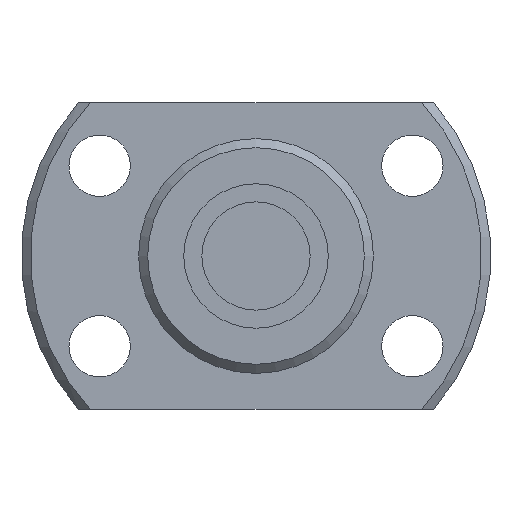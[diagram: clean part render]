
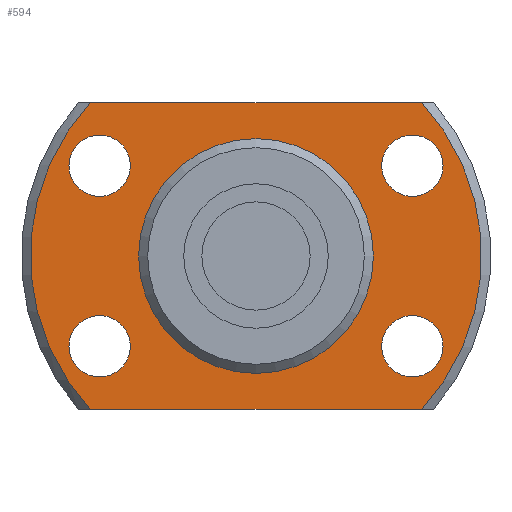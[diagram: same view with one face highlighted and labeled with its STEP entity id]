
A CAD part, left-side view. The second image highlights one B-rep face of the part: STEP entity #594.
In plain terms, the highlighted planar face has unit normal (-1, 0, 0) as drawn and (1, 0, 0) by its records, which use the part's own axes.
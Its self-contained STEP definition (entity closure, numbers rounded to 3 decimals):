
#80=CIRCLE('',#673,12.5);
#95=CIRCLE('',#697,6.3);
#96=CIRCLE('',#699,12.5);
#97=CIRCLE('',#700,1.7);
#98=CIRCLE('',#701,1.7);
#99=CIRCLE('',#702,1.7);
#100=CIRCLE('',#703,1.7);
#193=ORIENTED_EDGE('',*,*,#292,.T.);
#194=ORIENTED_EDGE('',*,*,#270,.T.);
#195=ORIENTED_EDGE('',*,*,#293,.T.);
#196=ORIENTED_EDGE('',*,*,#294,.T.);
#197=ORIENTED_EDGE('',*,*,#295,.F.);
#198=ORIENTED_EDGE('',*,*,#296,.F.);
#199=ORIENTED_EDGE('',*,*,#297,.F.);
#200=ORIENTED_EDGE('',*,*,#298,.F.);
#201=ORIENTED_EDGE('',*,*,#291,.F.);
#270=EDGE_CURVE('',#330,#332,#80,.T.);
#291=EDGE_CURVE('',#351,#351,#95,.T.);
#292=EDGE_CURVE('',#352,#330,#374,.T.);
#293=EDGE_CURVE('',#332,#353,#375,.T.);
#294=EDGE_CURVE('',#353,#352,#96,.T.);
#295=EDGE_CURVE('',#354,#354,#97,.T.);
#296=EDGE_CURVE('',#355,#355,#98,.T.);
#297=EDGE_CURVE('',#356,#356,#99,.T.);
#298=EDGE_CURVE('',#357,#357,#100,.T.);
#330=VERTEX_POINT('',#986);
#332=VERTEX_POINT('',#993);
#351=VERTEX_POINT('',#1049);
#352=VERTEX_POINT('',#1052);
#353=VERTEX_POINT('',#1054);
#354=VERTEX_POINT('',#1057);
#355=VERTEX_POINT('',#1059);
#356=VERTEX_POINT('',#1061);
#357=VERTEX_POINT('',#1063);
#374=LINE('',#1051,#392);
#375=LINE('',#1053,#393);
#392=VECTOR('',#869,1000.);
#393=VECTOR('',#870,1000.);
#451=EDGE_LOOP('',(#193,#194,#195,#196));
#452=EDGE_LOOP('',(#197));
#453=EDGE_LOOP('',(#198));
#454=EDGE_LOOP('',(#199));
#455=EDGE_LOOP('',(#200));
#456=EDGE_LOOP('',(#201));
#525=FACE_BOUND('',#451,.T.);
#526=FACE_BOUND('',#452,.T.);
#527=FACE_BOUND('',#453,.T.);
#528=FACE_BOUND('',#454,.T.);
#529=FACE_BOUND('',#455,.T.);
#530=FACE_BOUND('',#456,.T.);
#560=PLANE('',#698);
#594=ADVANCED_FACE('',(#525,#526,#527,#528,#529,#530),#560,.T.);
#673=AXIS2_PLACEMENT_3D('',#994,#813,#814);
#697=AXIS2_PLACEMENT_3D('',#1048,#865,#866);
#698=AXIS2_PLACEMENT_3D('',#1050,#867,#868);
#699=AXIS2_PLACEMENT_3D('',#1055,#871,#872);
#700=AXIS2_PLACEMENT_3D('',#1056,#873,#874);
#701=AXIS2_PLACEMENT_3D('',#1058,#875,#876);
#702=AXIS2_PLACEMENT_3D('',#1060,#877,#878);
#703=AXIS2_PLACEMENT_3D('',#1062,#879,#880);
#813=DIRECTION('',(1.,0.,0.));
#814=DIRECTION('',(0.,0.,-1.));
#865=DIRECTION('',(1.,0.,0.));
#866=DIRECTION('',(0.,0.,-1.));
#867=DIRECTION('',(1.,0.,0.));
#868=DIRECTION('',(0.,0.,-1.));
#869=DIRECTION('',(0.,-1.,0.));
#870=DIRECTION('',(0.,1.,0.));
#871=DIRECTION('',(1.,0.,0.));
#872=DIRECTION('',(0.,0.,-1.));
#873=DIRECTION('',(1.,0.,0.));
#874=DIRECTION('',(0.,0.,-1.));
#875=DIRECTION('',(1.,0.,0.));
#876=DIRECTION('',(0.,0.,-1.));
#877=DIRECTION('',(1.,0.,0.));
#878=DIRECTION('',(0.,0.,-1.));
#879=DIRECTION('',(1.,0.,0.));
#880=DIRECTION('',(0.,0.,-1.));
#986=CARTESIAN_POINT('',(4.,-9.165,8.5));
#993=CARTESIAN_POINT('',(4.,-9.165,-8.5));
#994=CARTESIAN_POINT('',(4.,0.,0.));
#1048=CARTESIAN_POINT('',(4.,0.,0.));
#1049=CARTESIAN_POINT('',(4.,0.,-6.3));
#1050=CARTESIAN_POINT('',(4.,6.3,0.));
#1051=CARTESIAN_POINT('',(4.,13.,8.5));
#1052=CARTESIAN_POINT('',(4.,9.165,8.5));
#1053=CARTESIAN_POINT('',(4.,-13.,-8.5));
#1054=CARTESIAN_POINT('',(4.,9.165,-8.5));
#1055=CARTESIAN_POINT('',(4.,0.,0.));
#1056=CARTESIAN_POINT('',(4.,8.66,5.));
#1057=CARTESIAN_POINT('',(4.,8.66,3.3));
#1058=CARTESIAN_POINT('',(4.,-8.66,5.));
#1059=CARTESIAN_POINT('',(4.,-8.66,3.3));
#1060=CARTESIAN_POINT('',(4.,-8.66,-5.));
#1061=CARTESIAN_POINT('',(4.,-8.66,-6.7));
#1062=CARTESIAN_POINT('',(4.,8.66,-5.));
#1063=CARTESIAN_POINT('',(4.,8.66,-6.7));
